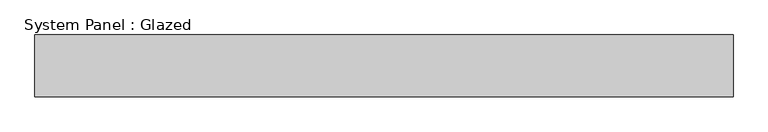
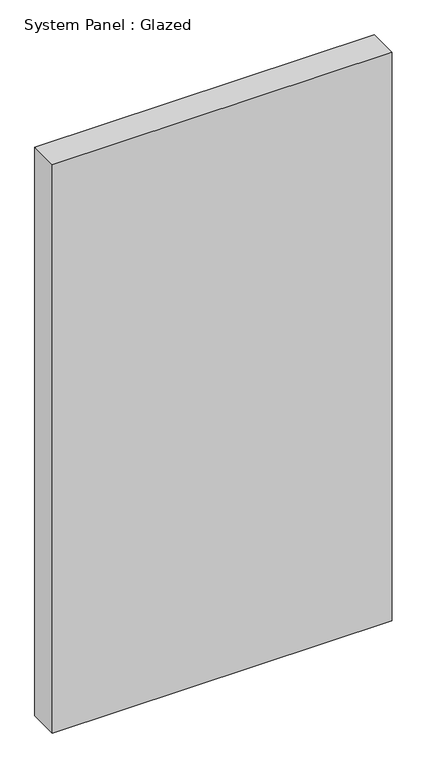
"""IFC4 building model written with IfcOpenShell, lengths in millimetres: plate geometry, System Panel : Glazed."""

from ifc_helpers import new_model, si_unit, origin, origin_with_axes, place, context, project, spatial, polyline, outline, extrude, source, transform, mapped, element, save


def system_panel_glazed_24b3d340(model_context):
    return source(origin(), model_context, "Body", "SweptSolid", [
        extrude(outline(polyline([(564.9168489, 50.0), (-564.9168489, 50.0), (-564.9168489, 150.0), (564.9168489, 150.0), (564.9168489, 50.0)])), origin_with_axes(), (0.0, 0.0, 1.0), 1996.8090256),
    ])


if __name__ == "__main__":
    model = new_model("IFC4")
    model_context = context("Model", 3, world=origin())
    ifc_project = project(units=[si_unit("LENGTHUNIT", "METRE", prefix="MILLI")], contexts=[model_context])
    site = spatial("IfcSite", under=ifc_project)
    building = spatial("IfcBuilding", under=site)
    placement = place(None, origin())
    system_panel_glazed_shape = system_panel_glazed_24b3d340(model_context)
    element("IfcPlate", 1, ObjectType="System Panel : Glazed", at=placement, inside=building, context=model_context, shape_type="MappedRepresentation", body=[
        mapped(system_panel_glazed_shape, transform((0.0, 0.0, 0.0), x_axis=(1.0, 0.0, 0.0), y_axis=(0.0, 1.0, 0.0), z_axis=(0.0, 0.0, 1.0))),
    ])
    save(model, "model.ifc")
